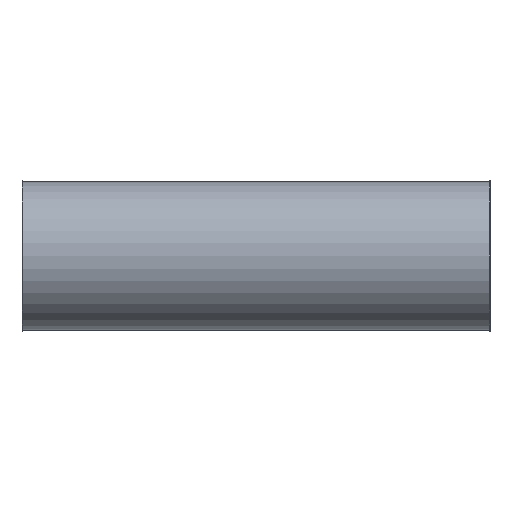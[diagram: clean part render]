
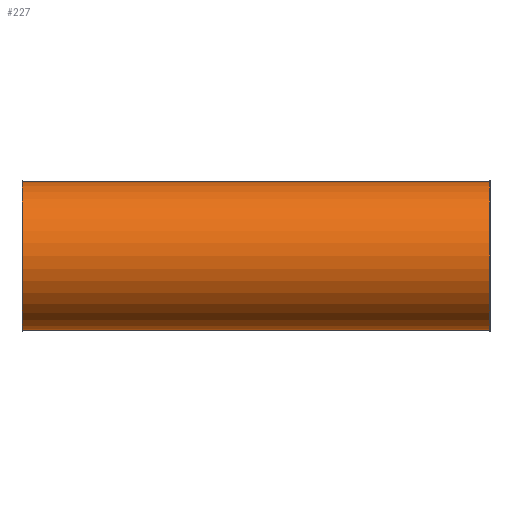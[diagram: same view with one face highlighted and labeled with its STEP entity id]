
A CAD part, front view. The second image highlights one B-rep face of the part: STEP entity #227.
In plain terms, the highlighted cylindrical face has radius 316 mm (diameter 632 mm), a full revolution.
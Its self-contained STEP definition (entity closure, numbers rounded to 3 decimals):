
#112=CARTESIAN_POINT('',(-31.741,2.915,0.0));
#113=VERTEX_POINT('',#112);
#114=CARTESIAN_POINT('',(-31.741,318.915,0.0));
#115=DIRECTION('',(-1.0,0.0,0.0));
#116=DIRECTION('',(0.0,-1.0,0.0));
#117=AXIS2_PLACEMENT_3D('',#114,#115,#116);
#118=CIRCLE('',#117,316.0);
#119=EDGE_CURVE('',#113,#113,#118,.T.);
#204=CARTESIAN_POINT('',(1950.259,2.915,0.0));
#205=VERTEX_POINT('',#204);
#206=CARTESIAN_POINT('',(1950.259,318.915,0.0));
#207=DIRECTION('',(-1.0,0.0,0.0));
#208=DIRECTION('',(0.0,-1.0,0.0));
#209=AXIS2_PLACEMENT_3D('',#206,#207,#208);
#210=CIRCLE('',#209,316.);
#211=EDGE_CURVE('',#205,#205,#210,.T.);
#216=CARTESIAN_POINT('',(959.259,318.915,0.0));
#217=DIRECTION('',(-1.0,0.,0.0));
#218=DIRECTION('',(0.0,-1.0,0.0));
#219=AXIS2_PLACEMENT_3D('',#216,#217,#218);
#220=CYLINDRICAL_SURFACE('',#219,316.);
#221=ORIENTED_EDGE('',*,*,#119,.F.);
#222=EDGE_LOOP('',(#221));
#223=FACE_OUTER_BOUND('',#222,.T.);
#224=ORIENTED_EDGE('',*,*,#211,.T.);
#225=EDGE_LOOP('',(#224));
#226=FACE_BOUND('',#225,.T.);
#227=ADVANCED_FACE('',(#223,#226),#220,.T.);
